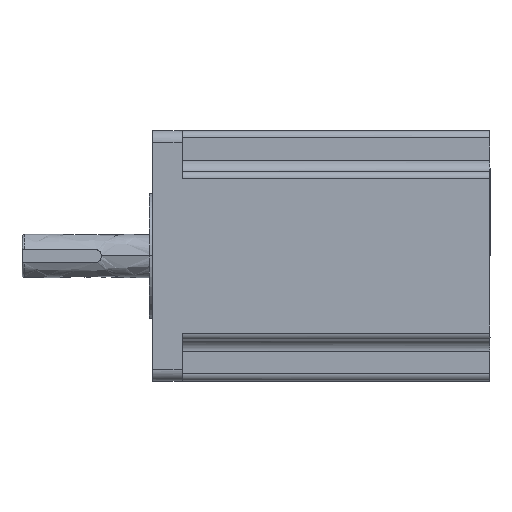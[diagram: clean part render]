
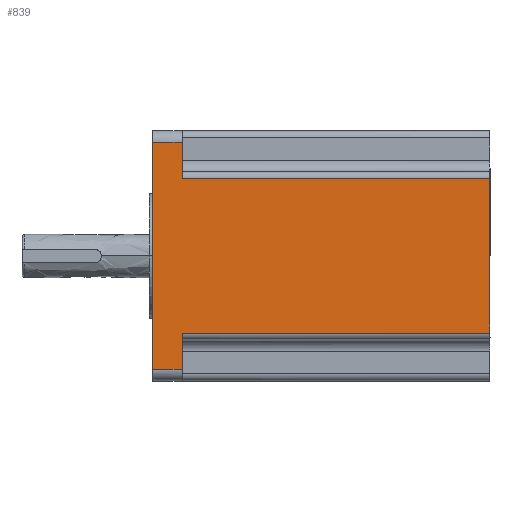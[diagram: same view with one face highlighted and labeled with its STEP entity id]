
A CAD part, top view. The second image highlights one B-rep face of the part: STEP entity #839.
In plain terms, the highlighted free-form (B-spline) face has degree [1, 1] with [2, 2] control points.
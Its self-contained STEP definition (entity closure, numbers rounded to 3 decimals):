
#8 = ORIENTED_EDGE ( 'NONE', *, *, #2057, .T. ) ;
#60 = EDGE_CURVE ( 'NONE', #967, #819, #1855, .T. ) ;
#105 = EDGE_CURVE ( 'NONE', #2686, #2285, #1711, .T. ) ;
#176 = B_SPLINE_SURFACE_WITH_KNOTS ( 'NONE', 1, 1, ( 
 ( #1499, #2380 ),
 ( #420, #1283 ) ),
 .UNSPECIFIED., .F., .F., .F.,
 ( 2, 2 ),
 ( 2, 2 ),
 ( 0., 1. ),
 ( 0., 1. ),
 .UNSPECIFIED. ) ;
#180 = CARTESIAN_POINT ( 'NONE',  ( 148.5, 34., 55. ) ) ;
#201 = CARTESIAN_POINT ( 'NONE',  ( 148.5, -34., 55. ) ) ;
#208 = VERTEX_POINT ( 'NONE', #1535 ) ;
#211 = CARTESIAN_POINT ( 'NONE',  ( 0., 50., 55. ) ) ;
#264 = CARTESIAN_POINT ( 'NONE',  ( 13., 34., 55. ) ) ;
#275 = B_SPLINE_CURVE_WITH_KNOTS ( 'NONE', 1,
 ( #201, #1723 ),
 .UNSPECIFIED., .F., .F.,
 ( 2, 2 ),
 ( 0., 1. ),
 .UNSPECIFIED. ) ;
#285 = VERTEX_POINT ( 'NONE', #2651 ) ;
#376 = B_SPLINE_CURVE_WITH_KNOTS ( 'NONE', 1,
 ( #2744, #780 ),
 .UNSPECIFIED., .F., .F.,
 ( 2, 2 ),
 ( 0., 1. ),
 .UNSPECIFIED. ) ;
#405 = CARTESIAN_POINT ( 'NONE',  ( 13., 34., 55. ) ) ;
#420 = CARTESIAN_POINT ( 'NONE',  ( 0., -50., 55. ) ) ;
#447 = CARTESIAN_POINT ( 'NONE',  ( 13., 50., 55. ) ) ;
#572 = EDGE_CURVE ( 'NONE', #819, #1181, #1631, .T. ) ;
#582 = EDGE_LOOP ( 'NONE', ( #2000, #2223, #8, #862, #1496, #816, #2300, #1901 ) ) ;
#613 = CARTESIAN_POINT ( 'NONE',  ( 0., -50., 55. ) ) ;
#737 = CARTESIAN_POINT ( 'NONE',  ( 13., -34., 55. ) ) ;
#780 = CARTESIAN_POINT ( 'NONE',  ( 13., -50., 55. ) ) ;
#816 = ORIENTED_EDGE ( 'NONE', *, *, #1656, .T. ) ;
#819 = VERTEX_POINT ( 'NONE', #405 ) ;
#839 = ADVANCED_FACE ( 'NONE', ( #2594 ), #176, .F. ) ;
#862 = ORIENTED_EDGE ( 'NONE', *, *, #1869, .F. ) ;
#894 = CARTESIAN_POINT ( 'NONE',  ( 13., 50., 55. ) ) ;
#967 = VERTEX_POINT ( 'NONE', #894 ) ;
#1093 = VERTEX_POINT ( 'NONE', #1618 ) ;
#1116 = CARTESIAN_POINT ( 'NONE',  ( 0., -50., 55. ) ) ;
#1127 = CARTESIAN_POINT ( 'NONE',  ( 148.5, 34., 55. ) ) ;
#1181 = VERTEX_POINT ( 'NONE', #180 ) ;
#1283 = CARTESIAN_POINT ( 'NONE',  ( 0., 50., 55. ) ) ;
#1329 = CARTESIAN_POINT ( 'NONE',  ( 0., -50., 55. ) ) ;
#1484 = CARTESIAN_POINT ( 'NONE',  ( 13., -50., 55. ) ) ;
#1496 = ORIENTED_EDGE ( 'NONE', *, *, #2283, .F. ) ;
#1499 = CARTESIAN_POINT ( 'NONE',  ( 148.5, -50., 55. ) ) ;
#1535 = CARTESIAN_POINT ( 'NONE',  ( 148.5, -34., 55. ) ) ;
#1617 = CARTESIAN_POINT ( 'NONE',  ( 0., 50., 55. ) ) ;
#1618 = CARTESIAN_POINT ( 'NONE',  ( 13., -50., 55. ) ) ;
#1631 = B_SPLINE_CURVE_WITH_KNOTS ( 'NONE', 1,
 ( #264, #1127 ),
 .UNSPECIFIED., .F., .F.,
 ( 2, 2 ),
 ( -1., 0. ),
 .UNSPECIFIED. ) ;
#1656 = EDGE_CURVE ( 'NONE', #208, #1181, #275, .T. ) ;
#1711 = B_SPLINE_CURVE_WITH_KNOTS ( 'NONE', 1,
 ( #1329, #2201 ),
 .UNSPECIFIED., .F., .F.,
 ( 2, 2 ),
 ( 0., 1. ),
 .UNSPECIFIED. ) ;
#1723 = CARTESIAN_POINT ( 'NONE',  ( 148.5, 34., 55. ) ) ;
#1855 = B_SPLINE_CURVE_WITH_KNOTS ( 'NONE', 1,
 ( #447, #1976 ),
 .UNSPECIFIED., .F., .F.,
 ( 2, 2 ),
 ( 0., 1. ),
 .UNSPECIFIED. ) ;
#1869 = EDGE_CURVE ( 'NONE', #285, #1093, #376, .T. ) ;
#1901 = ORIENTED_EDGE ( 'NONE', *, *, #60, .F. ) ;
#1976 = CARTESIAN_POINT ( 'NONE',  ( 13., 34., 55. ) ) ;
#2000 = ORIENTED_EDGE ( 'NONE', *, *, #2074, .T. ) ;
#2048 = CARTESIAN_POINT ( 'NONE',  ( 148.5, -34., 55. ) ) ;
#2057 = EDGE_CURVE ( 'NONE', #2686, #1093, #2295, .T. ) ;
#2074 = EDGE_CURVE ( 'NONE', #967, #2285, #2803, .T. ) ;
#2162 = CARTESIAN_POINT ( 'NONE',  ( 13., 50., 55. ) ) ;
#2201 = CARTESIAN_POINT ( 'NONE',  ( 0., 50., 55. ) ) ;
#2223 = ORIENTED_EDGE ( 'NONE', *, *, #105, .F. ) ;
#2283 = EDGE_CURVE ( 'NONE', #208, #285, #2767, .T. ) ;
#2285 = VERTEX_POINT ( 'NONE', #1617 ) ;
#2295 = B_SPLINE_CURVE_WITH_KNOTS ( 'NONE', 1,
 ( #613, #1484 ),
 .UNSPECIFIED., .F., .F.,
 ( 2, 2 ),
 ( 0., 1. ),
 .UNSPECIFIED. ) ;
#2300 = ORIENTED_EDGE ( 'NONE', *, *, #572, .F. ) ;
#2380 = CARTESIAN_POINT ( 'NONE',  ( 148.5, 50., 55. ) ) ;
#2594 = FACE_OUTER_BOUND ( 'NONE', #582, .T. ) ;
#2651 = CARTESIAN_POINT ( 'NONE',  ( 13., -34., 55. ) ) ;
#2686 = VERTEX_POINT ( 'NONE', #1116 ) ;
#2744 = CARTESIAN_POINT ( 'NONE',  ( 13., -34., 55. ) ) ;
#2767 = B_SPLINE_CURVE_WITH_KNOTS ( 'NONE', 1,
 ( #2048, #737 ),
 .UNSPECIFIED., .F., .F.,
 ( 2, 2 ),
 ( -1., 0. ),
 .UNSPECIFIED. ) ;
#2803 = B_SPLINE_CURVE_WITH_KNOTS ( 'NONE', 1,
 ( #2162, #211 ),
 .UNSPECIFIED., .F., .F.,
 ( 2, 2 ),
 ( 0., 1. ),
 .UNSPECIFIED. ) ;
